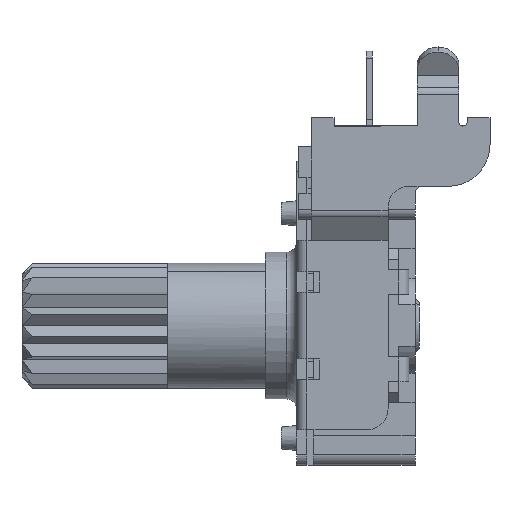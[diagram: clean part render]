
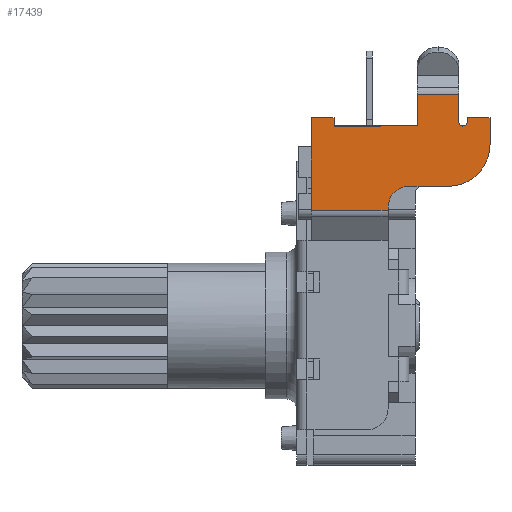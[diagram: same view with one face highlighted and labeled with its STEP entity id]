
A CAD part, left-side view. The second image highlights one B-rep face of the part: STEP entity #17439.
In plain terms, the highlighted planar face has unit normal (-1, 0, 0).
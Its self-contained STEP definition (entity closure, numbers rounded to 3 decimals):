
#264 = ORIENTED_EDGE ( 'NONE', *, *, #3727, .F. ) ;
#335 = CARTESIAN_POINT ( 'NONE',  ( -8.15, -7.7, 1.9 ) ) ;
#583 = EDGE_CURVE ( 'NONE', #2301, #9554, #7373, .T. ) ;
#693 = CIRCLE ( 'NONE', #15065, 1. ) ;
#1127 = CARTESIAN_POINT ( 'NONE',  ( -8.15, -8.8, -1.2 ) ) ;
#1602 = CARTESIAN_POINT ( 'NONE',  ( -8.15, -7.3, 1.9 ) ) ;
#1615 = ORIENTED_EDGE ( 'NONE', *, *, #9613, .F. ) ;
#1925 = CARTESIAN_POINT ( 'NONE',  ( -8.15, -6.8, -1.2 ) ) ;
#2114 = CIRCLE ( 'NONE', #12225, 2. ) ;
#2120 = DIRECTION ( 'NONE',  ( 0., 0., 1. ) ) ;
#2158 = DIRECTION ( 'NONE',  ( 0., 0., -1. ) ) ;
#2301 = VERTEX_POINT ( 'NONE', #2355 ) ;
#2355 = CARTESIAN_POINT ( 'NONE',  ( -8.15, -7.7, 2.1 ) ) ;
#2385 = VERTEX_POINT ( 'NONE', #9499 ) ;
#2550 = EDGE_CURVE ( 'NONE', #9308, #3983, #6109, .T. ) ;
#2557 = DIRECTION ( 'NONE',  ( 0., 1., 0. ) ) ;
#2576 = CARTESIAN_POINT ( 'NONE',  ( -8.15, -6.8, 0.8 ) ) ;
#2923 = EDGE_CURVE ( 'NONE', #14374, #5305, #5825, .T. ) ;
#3058 = VERTEX_POINT ( 'NONE', #15089 ) ;
#3209 = DIRECTION ( 'NONE',  ( 0., 0., 1. ) ) ;
#3323 = VECTOR ( 'NONE', #2120, 1000. ) ;
#3527 = ORIENTED_EDGE ( 'NONE', *, *, #15407, .F. ) ;
#3620 = AXIS2_PLACEMENT_3D ( 'NONE', #15462, #9101, #14460 ) ;
#3694 = VECTOR ( 'NONE', #2557, 1000. ) ;
#3727 = EDGE_CURVE ( 'NONE', #9488, #13189, #12215, .T. ) ;
#3738 = VECTOR ( 'NONE', #15496, 1000. ) ;
#3898 = CARTESIAN_POINT ( 'NONE',  ( -8.15, -8.8, 2.1 ) ) ;
#3983 = VERTEX_POINT ( 'NONE', #15759 ) ;
#4093 = VERTEX_POINT ( 'NONE', #7896 ) ;
#4303 = ORIENTED_EDGE ( 'NONE', *, *, #2923, .F. ) ;
#4363 = EDGE_CURVE ( 'NONE', #3983, #13189, #693, .T. ) ;
#4549 = ORIENTED_EDGE ( 'NONE', *, *, #11016, .T. ) ;
#4884 = EDGE_CURVE ( 'NONE', #5305, #7803, #10478, .T. ) ;
#4991 = CARTESIAN_POINT ( 'NONE',  ( -8.15, -1.3, 1.7 ) ) ;
#5008 = CARTESIAN_POINT ( 'NONE',  ( -8.15, -0.2, 1.7 ) ) ;
#5062 = DIRECTION ( 'NONE',  ( 0., 0., -1. ) ) ;
#5305 = VERTEX_POINT ( 'NONE', #4991 ) ;
#5344 = DIRECTION ( 'NONE',  ( 0., 1., 0. ) ) ;
#5640 = FACE_OUTER_BOUND ( 'NONE', #6796, .T. ) ;
#5658 = AXIS2_PLACEMENT_3D ( 'NONE', #9546, #16231, #13769 ) ;
#5708 = DIRECTION ( 'NONE',  ( 0., 0., 1. ) ) ;
#5803 = EDGE_CURVE ( 'NONE', #16543, #9308, #10694, .T. ) ;
#5818 = CARTESIAN_POINT ( 'NONE',  ( -8.15, -5.3, 1.7 ) ) ;
#5825 = LINE ( 'NONE', #9820, #10525 ) ;
#5862 = CARTESIAN_POINT ( 'NONE',  ( -8.15, -0.2, -2.515 ) ) ;
#5920 = ORIENTED_EDGE ( 'NONE', *, *, #16696, .T. ) ;
#5958 = CARTESIAN_POINT ( 'NONE',  ( -8.15, -7.7, 2.1 ) ) ;
#6109 = LINE ( 'NONE', #7026, #8841 ) ;
#6219 = ORIENTED_EDGE ( 'NONE', *, *, #11180, .T. ) ;
#6417 = CARTESIAN_POINT ( 'NONE',  ( -8.15, -4.9, -1.2 ) ) ;
#6440 = ORIENTED_EDGE ( 'NONE', *, *, #11809, .T. ) ;
#6796 = EDGE_LOOP ( 'NONE', ( #6219, #16313, #12447, #4549, #1615, #15573, #4303, #12986, #3527, #16405, #10314, #9291, #264, #5920, #6440, #15473, #12598 ) ) ;
#6868 = VECTOR ( 'NONE', #5344, 1000. ) ;
#7026 = CARTESIAN_POINT ( 'NONE',  ( -8.15, -3.9, -2.515 ) ) ;
#7297 = CARTESIAN_POINT ( 'NONE',  ( -8.15, -7.3, 3.2 ) ) ;
#7330 = DIRECTION ( 'NONE',  ( 0., 0., -1. ) ) ;
#7373 = LINE ( 'NONE', #5958, #3738 ) ;
#7475 = CARTESIAN_POINT ( 'NONE',  ( -8.15, -8.8, 1.7 ) ) ;
#7493 = DIRECTION ( 'NONE',  ( 1., 0., 0. ) ) ;
#7570 = EDGE_CURVE ( 'NONE', #16319, #11161, #16849, .T. ) ;
#7611 = LINE ( 'NONE', #9027, #3694 ) ;
#7803 = VERTEX_POINT ( 'NONE', #5818 ) ;
#7896 = CARTESIAN_POINT ( 'NONE',  ( -8.15, -0.2, 2.1 ) ) ;
#8024 = PLANE ( 'NONE',  #15672 ) ;
#8070 = LINE ( 'NONE', #14863, #11516 ) ;
#8340 = DIRECTION ( 'NONE',  ( 0., 0., 1. ) ) ;
#8810 = LINE ( 'NONE', #7475, #17345 ) ;
#8841 = VECTOR ( 'NONE', #8340, 1000. ) ;
#8894 = CARTESIAN_POINT ( 'NONE',  ( -8.15, -5.3, 2.2 ) ) ;
#9027 = CARTESIAN_POINT ( 'NONE',  ( -8.15, -5.3, 3.2 ) ) ;
#9101 = DIRECTION ( 'NONE',  ( 1., 0., 0. ) ) ;
#9234 = EDGE_CURVE ( 'NONE', #11161, #16115, #10236, .T. ) ;
#9291 = ORIENTED_EDGE ( 'NONE', *, *, #4363, .T. ) ;
#9308 = VERTEX_POINT ( 'NONE', #11968 ) ;
#9488 = VERTEX_POINT ( 'NONE', #1925 ) ;
#9499 = CARTESIAN_POINT ( 'NONE',  ( -8.15, -8.8, 2.1 ) ) ;
#9546 = CARTESIAN_POINT ( 'NONE',  ( -8.15, -7.5, 1.9 ) ) ;
#9554 = VERTEX_POINT ( 'NONE', #335 ) ;
#9582 = CARTESIAN_POINT ( 'NONE',  ( -8.15, -0.2, -2.357 ) ) ;
#9613 = EDGE_CURVE ( 'NONE', #7803, #3058, #14173, .T. ) ;
#9820 = CARTESIAN_POINT ( 'NONE',  ( -8.15, -1.3, 2.1 ) ) ;
#9861 = EDGE_CURVE ( 'NONE', #14374, #4093, #8070, .T. ) ;
#9977 = DIRECTION ( 'NONE',  ( 0., 0., -1. ) ) ;
#10236 = LINE ( 'NONE', #14281, #3323 ) ;
#10314 = ORIENTED_EDGE ( 'NONE', *, *, #2550, .T. ) ;
#10478 = LINE ( 'NONE', #5008, #15928 ) ;
#10525 = VECTOR ( 'NONE', #7330, 1000. ) ;
#10604 = CARTESIAN_POINT ( 'NONE',  ( -8.15, -0.2, -2.357 ) ) ;
#10694 = LINE ( 'NONE', #10604, #14819 ) ;
#10938 = CARTESIAN_POINT ( 'NONE',  ( -8.15, -1.3, 2.1 ) ) ;
#11016 = EDGE_CURVE ( 'NONE', #16115, #3058, #7611, .T. ) ;
#11114 = EDGE_CURVE ( 'NONE', #2385, #2301, #14725, .T. ) ;
#11161 = VERTEX_POINT ( 'NONE', #1602 ) ;
#11180 = EDGE_CURVE ( 'NONE', #9554, #16319, #16940, .T. ) ;
#11516 = VECTOR ( 'NONE', #15225, 1000. ) ;
#11809 = EDGE_CURVE ( 'NONE', #12531, #2385, #8810, .T. ) ;
#11856 = VECTOR ( 'NONE', #12983, 1000. ) ;
#11968 = CARTESIAN_POINT ( 'NONE',  ( -8.15, -3.9, -2.357 ) ) ;
#12215 = LINE ( 'NONE', #1127, #6868 ) ;
#12225 = AXIS2_PLACEMENT_3D ( 'NONE', #2576, #16083, #5062 ) ;
#12447 = ORIENTED_EDGE ( 'NONE', *, *, #9234, .T. ) ;
#12531 = VERTEX_POINT ( 'NONE', #13773 ) ;
#12558 = LINE ( 'NONE', #5862, #16838 ) ;
#12598 = ORIENTED_EDGE ( 'NONE', *, *, #583, .T. ) ;
#12641 = VECTOR ( 'NONE', #16907, 1000. ) ;
#12910 = DIRECTION ( 'NONE',  ( 1., 0., 0. ) ) ;
#12983 = DIRECTION ( 'NONE',  ( 0., 1., 0. ) ) ;
#12986 = ORIENTED_EDGE ( 'NONE', *, *, #9861, .T. ) ;
#13189 = VERTEX_POINT ( 'NONE', #6417 ) ;
#13195 = CARTESIAN_POINT ( 'NONE',  ( -8.15, -7.5, 1.7 ) ) ;
#13401 = CARTESIAN_POINT ( 'NONE',  ( -8.15, -0.2, -2.515 ) ) ;
#13769 = DIRECTION ( 'NONE',  ( 0., 0., -1. ) ) ;
#13773 = CARTESIAN_POINT ( 'NONE',  ( -8.15, -8.8, 0.8 ) ) ;
#14173 = LINE ( 'NONE', #8894, #12641 ) ;
#14281 = CARTESIAN_POINT ( 'NONE',  ( -8.15, -7.3, 1.7 ) ) ;
#14374 = VERTEX_POINT ( 'NONE', #10938 ) ;
#14460 = DIRECTION ( 'NONE',  ( 0., 0., -1. ) ) ;
#14725 = LINE ( 'NONE', #3898, #11856 ) ;
#14819 = VECTOR ( 'NONE', #16074, 1000. ) ;
#14863 = CARTESIAN_POINT ( 'NONE',  ( -8.15, -0.2, 2.1 ) ) ;
#15065 = AXIS2_PLACEMENT_3D ( 'NONE', #15375, #12910, #2158 ) ;
#15089 = CARTESIAN_POINT ( 'NONE',  ( -8.15, -5.3, 3.2 ) ) ;
#15225 = DIRECTION ( 'NONE',  ( 0., 1., 0. ) ) ;
#15375 = CARTESIAN_POINT ( 'NONE',  ( -8.15, -4.9, -2.2 ) ) ;
#15407 = EDGE_CURVE ( 'NONE', #16543, #4093, #12558, .T. ) ;
#15462 = CARTESIAN_POINT ( 'NONE',  ( -8.15, -7.5, 1.9 ) ) ;
#15473 = ORIENTED_EDGE ( 'NONE', *, *, #11114, .T. ) ;
#15496 = DIRECTION ( 'NONE',  ( 0., 0., -1. ) ) ;
#15573 = ORIENTED_EDGE ( 'NONE', *, *, #4884, .F. ) ;
#15672 = AXIS2_PLACEMENT_3D ( 'NONE', #13401, #7493, #9977 ) ;
#15759 = CARTESIAN_POINT ( 'NONE',  ( -8.15, -3.9, -2.2 ) ) ;
#15860 = DIRECTION ( 'NONE',  ( 0., -1., 0. ) ) ;
#15928 = VECTOR ( 'NONE', #15860, 1000. ) ;
#16074 = DIRECTION ( 'NONE',  ( 0., -1., 0. ) ) ;
#16083 = DIRECTION ( 'NONE',  ( -1., 0., 0. ) ) ;
#16115 = VERTEX_POINT ( 'NONE', #7297 ) ;
#16231 = DIRECTION ( 'NONE',  ( 1., 0., 0. ) ) ;
#16313 = ORIENTED_EDGE ( 'NONE', *, *, #7570, .T. ) ;
#16319 = VERTEX_POINT ( 'NONE', #13195 ) ;
#16405 = ORIENTED_EDGE ( 'NONE', *, *, #5803, .T. ) ;
#16543 = VERTEX_POINT ( 'NONE', #9582 ) ;
#16696 = EDGE_CURVE ( 'NONE', #9488, #12531, #2114, .T. ) ;
#16838 = VECTOR ( 'NONE', #3209, 1000. ) ;
#16849 = CIRCLE ( 'NONE', #3620, 0.2 ) ;
#16907 = DIRECTION ( 'NONE',  ( 0., 0., 1. ) ) ;
#16940 = CIRCLE ( 'NONE', #5658, 0.2 ) ;
#17345 = VECTOR ( 'NONE', #5708, 1000. ) ;
#17439 = ADVANCED_FACE ( 'NONE', ( #5640 ), #8024, .F. ) ;
